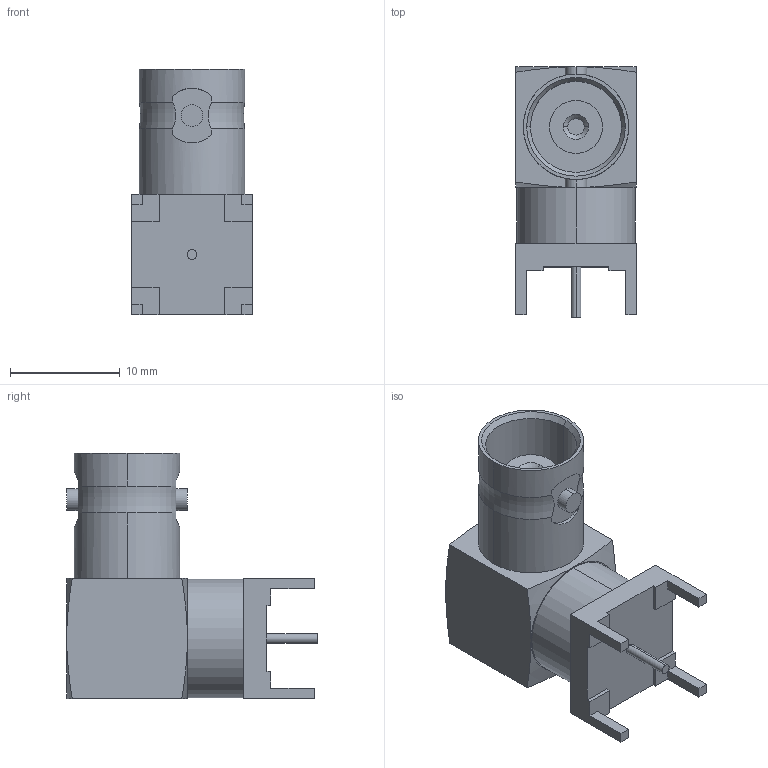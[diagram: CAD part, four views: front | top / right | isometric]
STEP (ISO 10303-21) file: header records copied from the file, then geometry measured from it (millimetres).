
FILE_DESCRIPTION((''),'2;1');
FILE_NAME('C-1-1478035-0','2016-12-09T',('workeradm'),('Tyco Electronics Ltd.'),'CREO PARAMETRIC BY PTC INC, 2016050','CREO PARAMETRIC BY PTC INC, 2016050','');
FILE_SCHEMA(('AUTOMOTIVE_DESIGN { 1 0 10303 214 1 1 1 1 }'));
Length unit declared in the file: millimetre
Products named in the file (1): C-1-1478035-0
Bounding box: 11 x 22.85 x 22.4 mm (x, y, z)
Volume: 2537.3 mm3; surface area: 1771 mm2
Topology: 1 solids, 1 shells, 81 faces, 198 edges, 128 vertices
Faces by surface type: plane 45, cylinder 22, cone 12, torus 2
Entity records: 2815 total; most frequent: CARTESIAN_POINT 724, ORIENTED_EDGE 396, DIRECTION 392, EDGE_CURVE 198, AXIS2_PLACEMENT_3D 137, VERTEX_POINT 128, COLOUR_RGB 126, VECTOR 118
